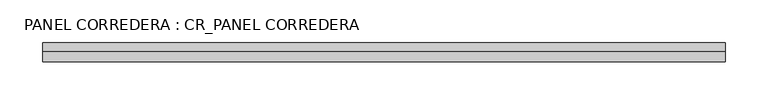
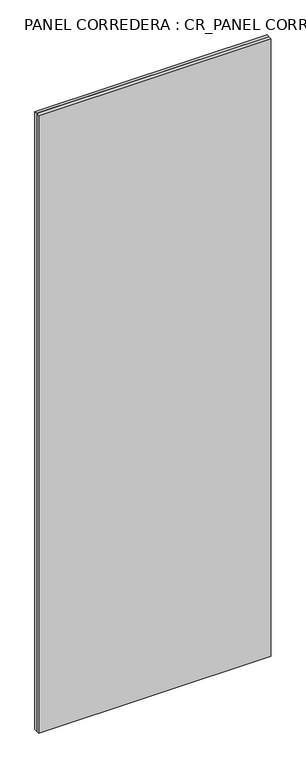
"""IFC4 building model written with IfcOpenShell, lengths in millimetres: plate geometry, PANEL CORREDERA : CR_PANEL CORREDERA."""

from ifc_helpers import new_model, si_unit, frame, origin, origin_with_axes, place, context, project, spatial, polyline, outline, extrude, source, transform, mapped, element, save


def panel_corredera_cr_panel_corredera_db6cee18(model_context):
    return source(origin(), model_context, "Body", "SweptSolid", [
        extrude(outline(polyline([(2250.0, -325.0), (0.0, -325.0), (0.0, 475.0), (2250.0, 475.0), (2250.0, -325.0)]), holes=[polyline([(2230.0, -305.0), (2230.0, 455.0), (20.0, 455.0), (20.0, -305.0), (2230.0, -305.0)])]), frame((0.0, -30.0, 0.0), z_axis=(0.0, 1.0, 0.0), x_axis=(0.0, 0.0, 1.0)), (0.0, 0.0, 1.0), 10.0),
        extrude(outline(polyline([(475.0, -30.0), (475.0, -42.5), (-325.0, -42.5), (-325.0, -30.0), (475.0, -30.0)])), origin_with_axes(), (0.0, 0.0, 1.0), 2250.0),
    ])


if __name__ == "__main__":
    model = new_model("IFC4")
    model_context = context("Model", 3, world=origin())
    ifc_project = project(units=[si_unit("LENGTHUNIT", "METRE", prefix="MILLI")], contexts=[model_context])
    site = spatial("IfcSite", under=ifc_project)
    building = spatial("IfcBuilding", under=site)
    placement = place(None, origin())
    panel_corredera_cr_panel_corredera_shape = panel_corredera_cr_panel_corredera_db6cee18(model_context)
    element("IfcPlate", 1, ObjectType="PANEL CORREDERA : CR_PANEL CORREDERA", at=placement, inside=building, context=model_context, shape_type="MappedRepresentation", body=[
        mapped(panel_corredera_cr_panel_corredera_shape, transform((0.0, 0.0, 0.0), x_axis=(1.0, 0.0, 0.0), y_axis=(0.0, 1.0, 0.0), z_axis=(0.0, 0.0, 1.0))),
    ])
    save(model, "model.ifc")
